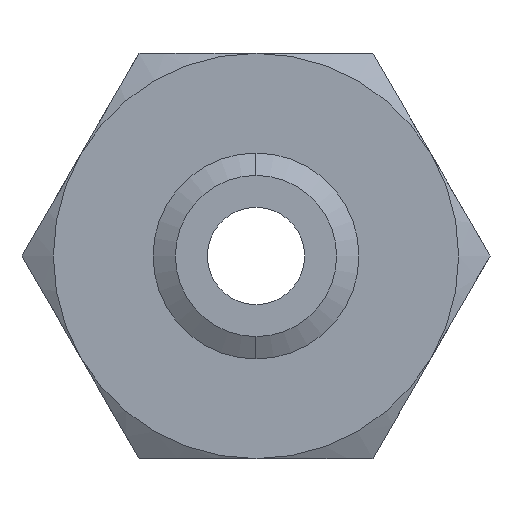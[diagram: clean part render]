
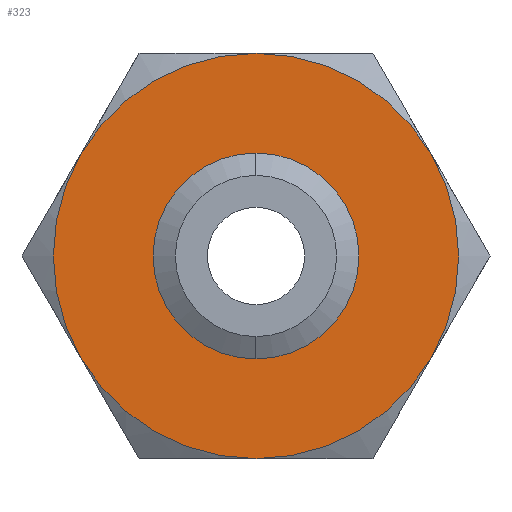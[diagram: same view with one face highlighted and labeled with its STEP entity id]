
A CAD part, front view. The second image highlights one B-rep face of the part: STEP entity #323.
In plain terms, the highlighted planar face has unit normal (0, -1, 0).
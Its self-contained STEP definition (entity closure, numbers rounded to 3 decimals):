
#119 = EDGE_CURVE ( 'NONE', #120, #121, #606, .T. ) ;
#120 = VERTEX_POINT ( 'NONE', #596 ) ;
#121 = VERTEX_POINT ( 'NONE', #595 ) ;
#296 = VERTEX_POINT ( 'NONE', #892 ) ;
#299 = VERTEX_POINT ( 'NONE', #891 ) ;
#300 = EDGE_CURVE ( 'NONE', #319, #312, #890, .T. ) ;
#301 = ORIENTED_EDGE ( 'NONE', *, *, #302, .F. ) ;
#302 = EDGE_CURVE ( 'NONE', #311, #319, #948, .T. ) ;
#303 = ORIENTED_EDGE ( 'NONE', *, *, #304, .F. ) ;
#304 = EDGE_CURVE ( 'NONE', #313, #311, #944, .T. ) ;
#305 = ORIENTED_EDGE ( 'NONE', *, *, #119, .F. ) ;
#306 = ORIENTED_EDGE ( 'NONE', *, *, #307, .F. ) ;
#307 = EDGE_CURVE ( 'NONE', #121, #120, #939, .T. ) ;
#311 = VERTEX_POINT ( 'NONE', #927 ) ;
#312 = VERTEX_POINT ( 'NONE', #926 ) ;
#313 = VERTEX_POINT ( 'NONE', #925 ) ;
#318 = ORIENTED_EDGE ( 'NONE', *, *, #328, .F. ) ;
#319 = VERTEX_POINT ( 'NONE', #978 ) ;
#320 = EDGE_LOOP ( 'NONE', ( #305, #306 ) ) ;
#321 = EDGE_CURVE ( 'NONE', #312, #299, #977, .T. ) ;
#322 = ORIENTED_EDGE ( 'NONE', *, *, #300, .F. ) ;
#323 = ADVANCED_FACE ( 'NONE', ( #972, #971 ), #970, .F. ) ;
#324 = EDGE_LOOP ( 'NONE', ( #318, #325, #327, #322, #301, #303 ) ) ;
#325 = ORIENTED_EDGE ( 'NONE', *, *, #326, .F. ) ;
#326 = EDGE_CURVE ( 'NONE', #299, #296, #964, .T. ) ;
#327 = ORIENTED_EDGE ( 'NONE', *, *, #321, .F. ) ;
#328 = EDGE_CURVE ( 'NONE', #296, #313, #960, .T. ) ;
#595 = CARTESIAN_POINT ( 'NONE',  ( 0., 0., 9.946 ) ) ;
#596 = CARTESIAN_POINT ( 'NONE',  ( 0., 0., -9.946 ) ) ;
#597 = DIRECTION ( 'NONE',  ( 0., 0., -1. ) ) ;
#598 = DIRECTION ( 'NONE',  ( 0., -1., 0. ) ) ;
#599 = CARTESIAN_POINT ( 'NONE',  ( 0., 0., 0. ) ) ;
#600 = AXIS2_PLACEMENT_3D ( 'NONE', #599, #598, #597 ) ;
#606 = CIRCLE ( 'NONE', #600, 9.946 ) ;
#885 = CARTESIAN_POINT ( 'NONE',  ( 0., 0., 0. ) ) ;
#886 = DIRECTION ( 'NONE',  ( 0., 0., 1. ) ) ;
#887 = DIRECTION ( 'NONE',  ( 0., 1., 0. ) ) ;
#888 = CARTESIAN_POINT ( 'NONE',  ( 0., 0., 0. ) ) ;
#889 = AXIS2_PLACEMENT_3D ( 'NONE', #888, #887, #886 ) ;
#890 = CIRCLE ( 'NONE', #889, 25. ) ;
#891 = CARTESIAN_POINT ( 'NONE',  ( -21.651, 0., 12.5 ) ) ;
#892 = CARTESIAN_POINT ( 'NONE',  ( 0., 0., 25. ) ) ;
#925 = CARTESIAN_POINT ( 'NONE',  ( 21.651, 0., 12.5 ) ) ;
#926 = CARTESIAN_POINT ( 'NONE',  ( -21.651, 0., -12.5 ) ) ;
#927 = CARTESIAN_POINT ( 'NONE',  ( 21.651, 0., -12.5 ) ) ;
#935 = DIRECTION ( 'NONE',  ( 0., 0., -1. ) ) ;
#936 = DIRECTION ( 'NONE',  ( 0., -1., 0. ) ) ;
#937 = CARTESIAN_POINT ( 'NONE',  ( 0., 0., 0. ) ) ;
#938 = AXIS2_PLACEMENT_3D ( 'NONE', #937, #936, #935 ) ;
#939 = CIRCLE ( 'NONE', #938, 9.946 ) ;
#940 = DIRECTION ( 'NONE',  ( 0., 0., 1. ) ) ;
#941 = DIRECTION ( 'NONE',  ( 0., 1., 0. ) ) ;
#942 = CARTESIAN_POINT ( 'NONE',  ( 0., 0., 0. ) ) ;
#943 = AXIS2_PLACEMENT_3D ( 'NONE', #942, #941, #940 ) ;
#944 = CIRCLE ( 'NONE', #943, 25. ) ;
#945 = DIRECTION ( 'NONE',  ( 0., 0., 1. ) ) ;
#946 = DIRECTION ( 'NONE',  ( 0., 1., 0. ) ) ;
#947 = AXIS2_PLACEMENT_3D ( 'NONE', #885, #946, #945 ) ;
#948 = CIRCLE ( 'NONE', #947, 25. ) ;
#956 = DIRECTION ( 'NONE',  ( 0., 0., 1. ) ) ;
#957 = DIRECTION ( 'NONE',  ( 0., 1., 0. ) ) ;
#958 = CARTESIAN_POINT ( 'NONE',  ( 0., 0., 0. ) ) ;
#959 = AXIS2_PLACEMENT_3D ( 'NONE', #958, #957, #956 ) ;
#960 = CIRCLE ( 'NONE', #959, 25. ) ;
#961 = DIRECTION ( 'NONE',  ( 0., 0., 1. ) ) ;
#962 = DIRECTION ( 'NONE',  ( 0., 1., 0. ) ) ;
#963 = AXIS2_PLACEMENT_3D ( 'NONE', #968, #962, #961 ) ;
#964 = CIRCLE ( 'NONE', #963, 25. ) ;
#965 = DIRECTION ( 'NONE',  ( 0., 0., 1. ) ) ;
#966 = DIRECTION ( 'NONE',  ( 0., 1., 0. ) ) ;
#967 = CARTESIAN_POINT ( 'NONE',  ( 14.434, 0., -25. ) ) ;
#968 = CARTESIAN_POINT ( 'NONE',  ( 0., 0., 0. ) ) ;
#969 = AXIS2_PLACEMENT_3D ( 'NONE', #967, #966, #965 ) ;
#970 = PLANE ( 'NONE',  #969 ) ;
#971 = FACE_BOUND ( 'NONE', #320, .T. ) ;
#972 = FACE_OUTER_BOUND ( 'NONE', #324, .T. ) ;
#973 = DIRECTION ( 'NONE',  ( 0., 0., 1. ) ) ;
#974 = DIRECTION ( 'NONE',  ( 0., 1., 0. ) ) ;
#975 = CARTESIAN_POINT ( 'NONE',  ( 0., 0., 0. ) ) ;
#976 = AXIS2_PLACEMENT_3D ( 'NONE', #975, #974, #973 ) ;
#977 = CIRCLE ( 'NONE', #976, 25. ) ;
#978 = CARTESIAN_POINT ( 'NONE',  ( 0., 0., -25. ) ) ;
